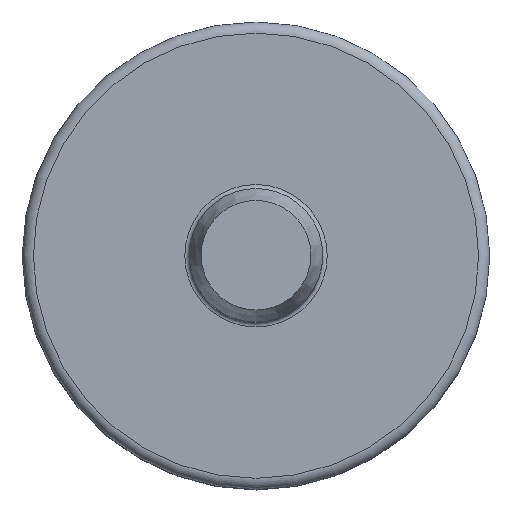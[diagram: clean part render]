
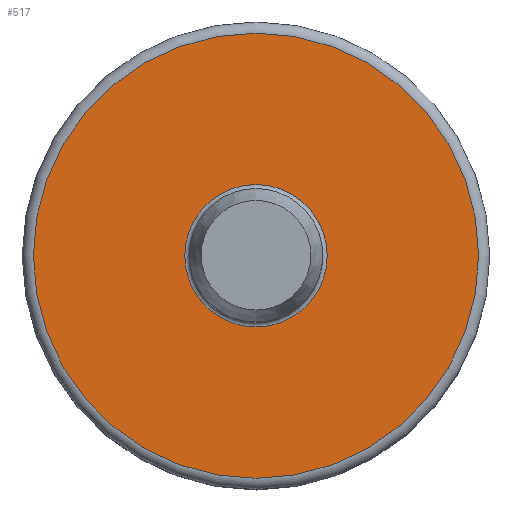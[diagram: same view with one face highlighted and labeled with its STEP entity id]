
A CAD part, top view. The second image highlights one B-rep face of the part: STEP entity #517.
In plain terms, the highlighted planar face has unit normal (0, 0, 1).
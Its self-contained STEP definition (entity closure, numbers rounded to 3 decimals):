
#65=PLANE('',#582);
#80=FACE_BOUND('',#175,.T.);
#127=FACE_OUTER_BOUND('',#174,.T.);
#174=EDGE_LOOP('',(#421));
#175=EDGE_LOOP('',(#422));
#230=CIRCLE('',#581,20.);
#231=CIRCLE('',#583,6.4);
#275=VERTEX_POINT('',#875);
#276=VERTEX_POINT('',#878);
#330=EDGE_CURVE('',#275,#275,#230,.T.);
#331=EDGE_CURVE('',#276,#276,#231,.T.);
#421=ORIENTED_EDGE('',*,*,#330,.T.);
#422=ORIENTED_EDGE('',*,*,#331,.F.);
#517=ADVANCED_FACE('',(#127,#80),#65,.T.);
#581=AXIS2_PLACEMENT_3D('',#876,#717,#718);
#582=AXIS2_PLACEMENT_3D('',#877,#719,#720);
#583=AXIS2_PLACEMENT_3D('',#879,#721,#722);
#717=DIRECTION('center_axis',(0.,0.,1.));
#718=DIRECTION('ref_axis',(0.,-1.,0.));
#719=DIRECTION('center_axis',(0.,0.,1.));
#720=DIRECTION('ref_axis',(1.,0.,0.));
#721=DIRECTION('center_axis',(0.,0.,1.));
#722=DIRECTION('ref_axis',(0.,-1.,0.));
#875=CARTESIAN_POINT('',(0.,-20.,0.));
#876=CARTESIAN_POINT('Origin',(0.,0.,0.));
#877=CARTESIAN_POINT('Origin',(0.,-13.2,0.));
#878=CARTESIAN_POINT('',(0.,-6.4,0.));
#879=CARTESIAN_POINT('Origin',(0.,0.,0.));
